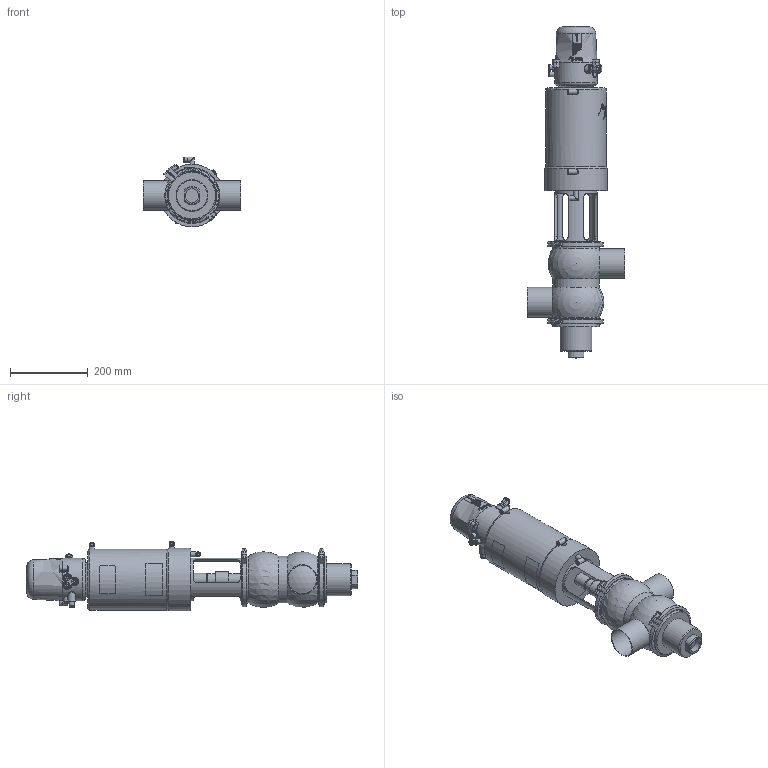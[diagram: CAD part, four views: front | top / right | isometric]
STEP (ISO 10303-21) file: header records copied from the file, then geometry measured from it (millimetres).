
FILE_DESCRIPTION (( 'STEP AP214' ), '1' );
FILE_NAME ('INNOVA P DC-180 W OD 3 & C-TOP S_10.250.16.0019.STEP', '2024-08-08T12:23:53', ( '' ), ( '' ), 'SwSTEP 2.0', 'SolidWorks 2023', '' );
FILE_SCHEMA (( 'AUTOMOTIVE_DESIGN' ));
Length unit declared in the file: millimetre
Products named in the file (7): 10.250.15.0003_DN 3"; 10.251.15.0011_OD 3"; 10.240.15.0001_DN 080; 10.250.15.0001_OD 3"; INNOVA P DC-180 W OD 3 & C-TOP S_10.250.16.0019; 10.250.15.0002_Type P T2; 10.426.15.0001_C-TOP S - 3 EV
Assembly tree (7 placements, depth 2):
  INNOVA P DC-180 W OD 3 & C-TOP S_10.250.16.0019
    10.250.15.0001_OD 3"
    10.250.15.0002_Type P T2
    10.426.15.0001_C-TOP S - 3 EV
    10.251.15.0011_OD 3"
    10.240.15.0001_DN 080  x2
    10.250.15.0003_DN 3"
Bounding box: 250 x 851.6 x 179.5 mm (x, y, z)
Volume: 10244169.7 mm3; surface area: 621874.1 mm2
Topology: 7 solids, 7 shells, 1202 faces, 2890 edges, 1922 vertices
Faces by surface type: plane 412, cylinder 383, cone 204, bspline 162, torus 33, sphere 8
Full cylindrical faces by diameter (mm): 0.371 x17, 0.512 x16, 0.658 x16, 0.795 x16, 0.94 x15, 1.098 x15, 1.241 x13, 1.382 x13, 1.523 x11, 1.669 x10, 2.201 x1, 4.2 x2, 5 x1, 5.5 x2, 6 x4, 6.15 x3, 8 x5, 10 x1, 10.5 x3, 11 x4, 12.5 x9, 13 x6, 13.5 x2, 17 x3, 20 x2, 22 x2, 30.5 x2, 32 x1, 35 x1, 41 x1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
Entity records: 59941 total; most frequent: CARTESIAN_POINT 28652, ORIENTED_EDGE 4596, DIRECTION 3745, EDGE_CURVE 2298, VERTEX_POINT 1640, EDGE_LOOP 1624, AXIS2_PLACEMENT_3D 1542, FACE_OUTER_BOUND 1371
